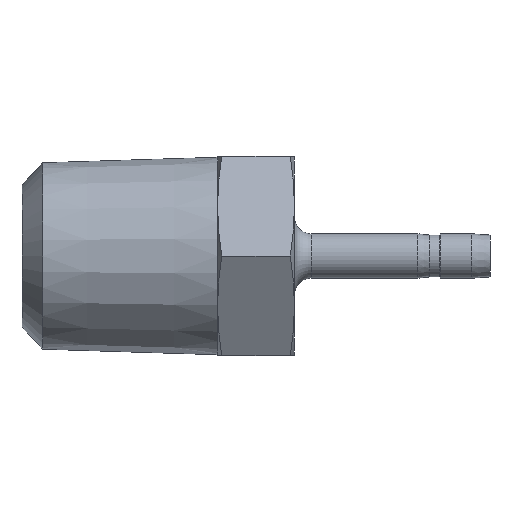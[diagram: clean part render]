
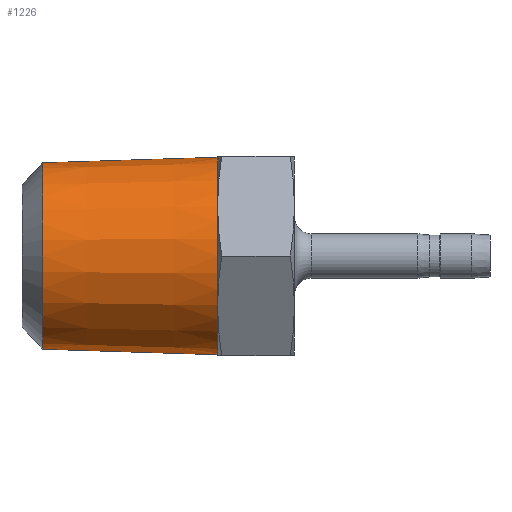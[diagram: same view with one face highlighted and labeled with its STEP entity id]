
A CAD part, front view. The second image highlights one B-rep face of the part: STEP entity #1226.
In plain terms, the highlighted conical face has half-angle 1.8 degrees and reference radius 6.808 mm.
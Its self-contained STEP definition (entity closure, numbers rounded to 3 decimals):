
#925 = CARTESIAN_POINT ( 'NONE',  ( 0., 0., 7.066 ) ) ;
#926 = DIRECTION ( 'NONE',  ( 0., 0., -1. ) ) ;
#927 = DIRECTION ( 'NONE',  ( -1., 0., 0. ) ) ;
#928 = CARTESIAN_POINT ( 'NONE',  ( 0., 0., 0. ) ) ;
#929 = AXIS2_PLACEMENT_3D ( 'NONE', #928, #927, #926 ) ;
#930 = CIRCLE ( 'NONE', #929, 7.066 ) ;
#949 = CARTESIAN_POINT ( 'NONE',  ( 0., 0., -7.066 ) ) ;
#950 = DIRECTION ( 'NONE',  ( 1., 0., -0.031 ) ) ;
#951 = VECTOR ( 'NONE', #950, 1000. ) ;
#952 = CARTESIAN_POINT ( 'NONE',  ( -8.21, 0., -6.808 ) ) ;
#953 = LINE ( 'NONE', #952, #951 ) ;
#954 = DIRECTION ( 'NONE',  ( 0., 0., -1. ) ) ;
#955 = DIRECTION ( 'NONE',  ( 1., 0., 0. ) ) ;
#956 = CARTESIAN_POINT ( 'NONE',  ( -12.501, 0., 0. ) ) ;
#957 = AXIS2_PLACEMENT_3D ( 'NONE', #956, #955, #954 ) ;
#958 = CIRCLE ( 'NONE', #957, 6.673 ) ;
#959 = DIRECTION ( 'NONE',  ( 0., 0., 1. ) ) ;
#960 = DIRECTION ( 'NONE',  ( 1., 0., 0. ) ) ;
#961 = AXIS2_PLACEMENT_3D ( 'NONE', #1106, #960, #959 ) ;
#989 = DIRECTION ( 'NONE',  ( 1., 0., 0.031 ) ) ;
#990 = VECTOR ( 'NONE', #989, 1000. ) ;
#991 = CARTESIAN_POINT ( 'NONE',  ( -8.21, 0., 6.808 ) ) ;
#992 = LINE ( 'NONE', #991, #990 ) ;
#1080 = CARTESIAN_POINT ( 'NONE',  ( -12.501, 0., -6.673 ) ) ;
#1086 = CARTESIAN_POINT ( 'NONE',  ( -12.501, 0., 6.673 ) ) ;
#1106 = CARTESIAN_POINT ( 'NONE',  ( -8.21, 0., 0. ) ) ;
#1107 = CONICAL_SURFACE ( 'NONE', #961, 6.808, 0.031 ) ;
#1108 = FACE_OUTER_BOUND ( 'NONE', #1227, .T. ) ;
#1226 = ADVANCED_FACE ( 'NONE', ( #1108 ), #1107, .T. ) ;
#1227 = EDGE_LOOP ( 'NONE', ( #1228, #1230, #1259, #1256 ) ) ;
#1228 = ORIENTED_EDGE ( 'NONE', *, *, #1229, .T. ) ;
#1229 = EDGE_CURVE ( 'NONE', #1240, #1243, #958, .T. ) ;
#1230 = ORIENTED_EDGE ( 'NONE', *, *, #1231, .T. ) ;
#1231 = EDGE_CURVE ( 'NONE', #1243, #1232, #953, .T. ) ;
#1232 = VERTEX_POINT ( 'NONE', #949 ) ;
#1240 = VERTEX_POINT ( 'NONE', #1086 ) ;
#1243 = VERTEX_POINT ( 'NONE', #1080 ) ;
#1254 = EDGE_CURVE ( 'NONE', #1232, #1255, #930, .T. ) ;
#1255 = VERTEX_POINT ( 'NONE', #925 ) ;
#1256 = ORIENTED_EDGE ( 'NONE', *, *, #1257, .F. ) ;
#1257 = EDGE_CURVE ( 'NONE', #1240, #1255, #992, .T. ) ;
#1259 = ORIENTED_EDGE ( 'NONE', *, *, #1254, .T. ) ;
